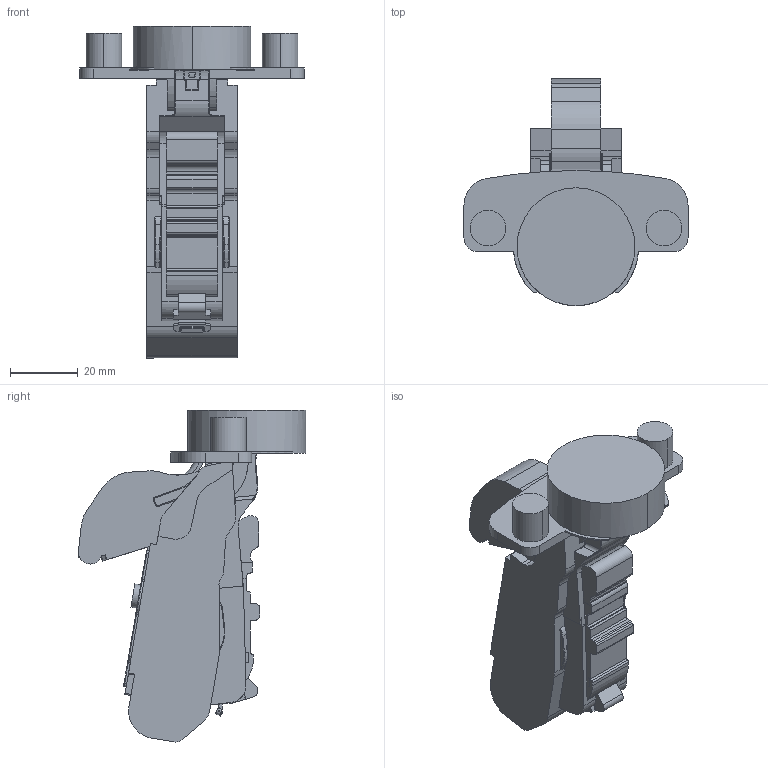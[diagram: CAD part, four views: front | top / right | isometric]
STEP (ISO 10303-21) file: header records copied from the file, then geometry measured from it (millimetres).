
FILE_DESCRIPTION (( 'STEP AP203' ), '1' );
FILE_NAME ('C81A807MFAB DTC 3D CLOSE.STEP', '2024-07-30T02:00:44', ( '微软用户' ), ( '微软中国' ), 'SwSTEP 2.0', 'SolidWorks 2021', '' );
FILE_SCHEMA (( 'CONFIG_CONTROL_DESIGN' ));
Length unit declared in the file: millimetre
Products named in the file (1): C81A807MFAB DTC 3D CLOSE
Bounding box: 66.2 x 67.21 x 98.04 mm (x, y, z)
Volume: 82617.5 mm3; surface area: 19472.1 mm2
Topology: 1 solids, 9 shells, 698 faces, 1921 edges, 1246 vertices
Faces by surface type: plane 307, cylinder 285, torus 79, bspline 16, sphere 7, cone 4
Entity records: 23563 total; most frequent: CARTESIAN_POINT 5657, ORIENTED_EDGE 3838, DIRECTION 3745, EDGE_CURVE 1919, AXIS2_PLACEMENT_3D 1326, VERTEX_POINT 1246, VECTOR 1093, LINE 1093
